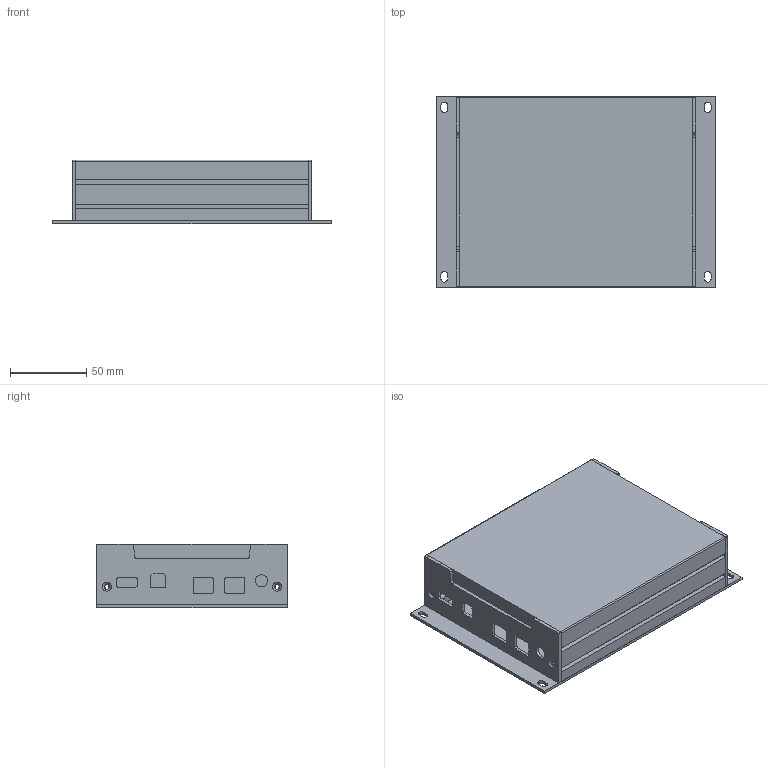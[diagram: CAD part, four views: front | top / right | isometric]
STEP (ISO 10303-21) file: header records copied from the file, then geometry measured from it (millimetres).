
FILE_DESCRIPTION(/* description */ (''),/* implementation_level */ '2;1');
FILE_NAME(/* name */ 'ZE125_V1_simple.step',/* time_stamp */ '2026-09-21T09:10:47+02:00',/* author */ (''),/* organization */ (''),/* preprocessor_version */ 'ST-DEVELOPER v20.1',/* originating_system */ 'Autodesk Translation Framework v15.8.0.0',/* authorisation */ '');
FILE_SCHEMA (('AUTOMOTIVE_DESIGN { 1 0 10303 214 3 1 1 }'));
Length unit declared in the file: millimetre
Products named in the file (5): Kerberos_drawing_V1; 44082_backplate; 44081_frontplate_JN20; 44085 bottomplate_152.7; 44087 heatsink_152.7_simple
Assembly tree (4 placements, depth 2):
  Kerberos_drawing_V1
    44082_backplate
    44081_frontplate_JN20
    44085 bottomplate_152.7
    44087 heatsink_152.7_simple
Bounding box: 182.7 x 125 x 41.7 mm (x, y, z)
Volume: 352881.4 mm3; surface area: 147076.5 mm2
Topology: 4 solids, 4 shells, 269 faces, 776 edges, 515 vertices
Faces by surface type: plane 164, cylinder 95, cone 10
Full cylindrical faces by diameter (mm): 3.3 x10, 8 x1
Entity records: 9070 total; most frequent: CARTESIAN_POINT 1569, ORIENTED_EDGE 1552, DIRECTION 1536, EDGE_CURVE 776, LINE 572, VECTOR 572, VERTEX_POINT 515, AXIS2_PLACEMENT_3D 482
